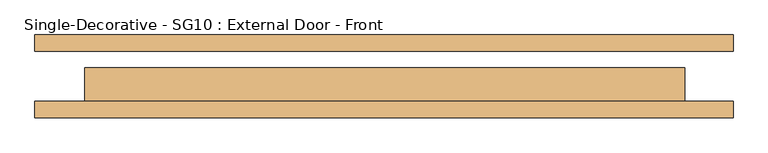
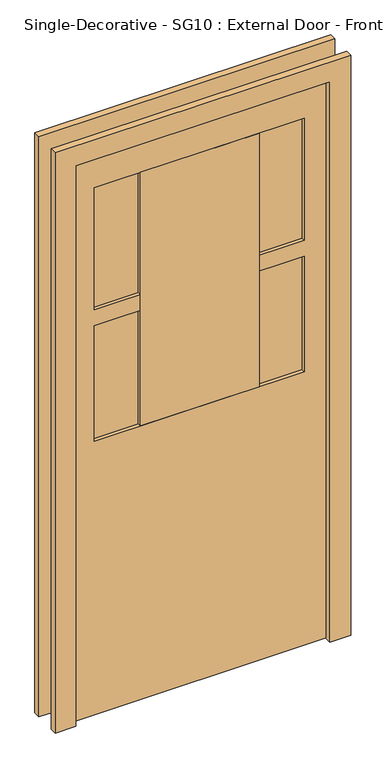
"""IFC4 building model written with IfcOpenShell, lengths in millimetres: door geometry, Single-Decorative - SG10 : External Door - Front."""

from ifc_helpers import new_model, si_unit, frame, origin, place, context, project, spatial, polyline, outline, extrude, source, transform, mapped, element, save


def single_decorative_sg10_external_door_front_c3bac1d7(model_context):
    return source(origin(), model_context, "Body", "SweptSolid", [
        extrude(outline(polyline([(-210.8750547, -38.1), (-210.8750547, -24.4757826), (217.2, -24.4757826), (217.2, -38.1), (-210.8750547, -38.1)])), frame((0.0, 0.0, 1041.6), z_axis=(0.0, 0.0, 1.0), x_axis=(1.0, 0.0, 0.0)), (0.0, 0.0, 1.0), 965.0),
        extrude(outline(polyline([(378.5333333, 6.5372196), (378.5333333, -24.6757826), (-377.2, -24.6757826), (-377.2, 6.5372196), (378.5333333, 6.5372196)])), frame((0.0, 0.0, 1541.6), z_axis=(0.0, 0.0, 1.0), x_axis=(1.0, 0.0, 0.0)), (0.0, 0.0, 1.0), 465.0),
        extrude(outline(polyline([(378.5333333, 6.5372196), (378.5333333, -24.6757826), (-377.2, -24.6757826), (-377.2, 6.5372196), (378.5333333, 6.5372196)])), frame((0.0, 0.0, 1041.6), z_axis=(0.0, 0.0, 1.0), x_axis=(1.0, 0.0, 0.0)), (0.0, 0.0, 1.0), 440.0),
        extrude(outline(polyline([(2208.6, -532.2), (0.0, -532.2), (0.0, -457.2), (2133.6, -457.2), (2133.6, 457.2), (0.0, 457.2), (0.0, 532.2), (2208.6, 532.2), (2208.6, -532.2)])), frame((0.0, -63.1, 0.0), z_axis=(0.0, 1.0, 0.0), x_axis=(0.0, 0.0, 1.0)), (0.0, 0.0, 1.0), 25.0),
        extrude(outline(polyline([(2133.6, -455.8666667), (0.0, -455.8666667), (0.0, 458.5333333), (2133.6, 458.5333333), (2133.6, -455.8666667)]), holes=[polyline([(2006.6, -377.2), (2006.6, 378.5333333), (1541.6, 378.5333333), (1541.6, -377.2), (2006.6, -377.2)]), polyline([(1041.6, 378.5333333), (1041.6, -377.2), (1481.6, -377.2), (1481.6, 378.5333333), (1041.6, 378.5333333)])]), frame((0.0, -38.1, 0.0), z_axis=(0.0, 1.0, 0.0), x_axis=(0.0, 0.0, 1.0)), (0.0, 0.0, 1.0), 50.8),
        extrude(outline(polyline([(2208.6, -532.2), (0.0, -532.2), (0.0, -457.2), (2133.6, -457.2), (2133.6, 457.2), (0.0, 457.2), (0.0, 532.2), (2208.6, 532.2), (2208.6, -532.2)])), frame((0.0, 38.1, 0.0), z_axis=(0.0, 1.0, 0.0), x_axis=(0.0, 0.0, 1.0)), (0.0, 0.0, 1.0), 25.0),
    ])


if __name__ == "__main__":
    model = new_model("IFC4")
    model_context = context("Model", 3, world=origin())
    ifc_project = project(units=[si_unit("LENGTHUNIT", "METRE", prefix="MILLI")], contexts=[model_context])
    site = spatial("IfcSite", under=ifc_project)
    building = spatial("IfcBuilding", under=site)
    placement = place(None, origin())
    single_decorative_sg10_external_door_front_shape = single_decorative_sg10_external_door_front_c3bac1d7(model_context)
    element("IfcDoor", 1, ObjectType="Single-Decorative - SG10 : External Door - Front", at=placement, inside=building, context=model_context, shape_type="MappedRepresentation", body=[
        mapped(single_decorative_sg10_external_door_front_shape, transform((0.0, 0.0, 0.0), x_axis=(1.0, 0.0, 0.0), y_axis=(0.0, 1.0, 0.0), z_axis=(0.0, 0.0, 1.0))),
    ])
    save(model, "model.ifc")
